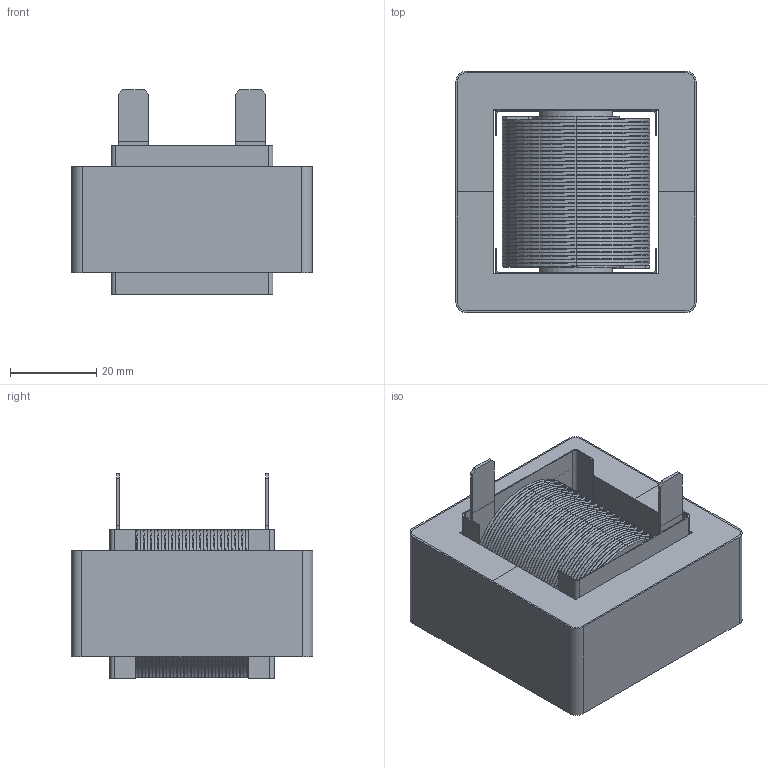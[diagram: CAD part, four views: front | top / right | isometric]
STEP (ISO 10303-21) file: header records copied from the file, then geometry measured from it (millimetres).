
FILE_DESCRIPTION (( 'STEP AP214' ), '1' );
FILE_NAME ('ES55246-161M-40AH.STEP', '2021-04-19T09:15:06', ( '' ), ( '' ), 'SwSTEP 2.0', 'SolidWorks 2015', '' );
FILE_SCHEMA (( 'AUTOMOTIVE_DESIGN' ));
Length unit declared in the file: millimetre
Products named in the file (6): ES55246-161M-40AH; SIDE MYLAR; WRAPPER; HELICAL COIL; E CORE; CENTER MYLAR
Assembly tree (7 placements, depth 2):
  ES55246-161M-40AH
    HELICAL COIL
    E CORE  x2
    SIDE MYLAR  x2
    CENTER MYLAR
    WRAPPER
Bounding box: 55.62 x 55.9 x 47.3 mm (x, y, z)
Volume: 69852.1 mm3; surface area: 92677.3 mm2
Topology: 9 solids, 9 shells, 444 faces, 1228 edges, 816 vertices
Faces by surface type: cylinder 204, plane 181, bspline 59
Entity records: 22712 total; most frequent: CARTESIAN_POINT 11498, ORIENTED_EDGE 2288, DIRECTION 1448, EDGE_CURVE 1144, VERTEX_POINT 760, VECTOR 632, LINE 632, EDGE_LOOP 434
